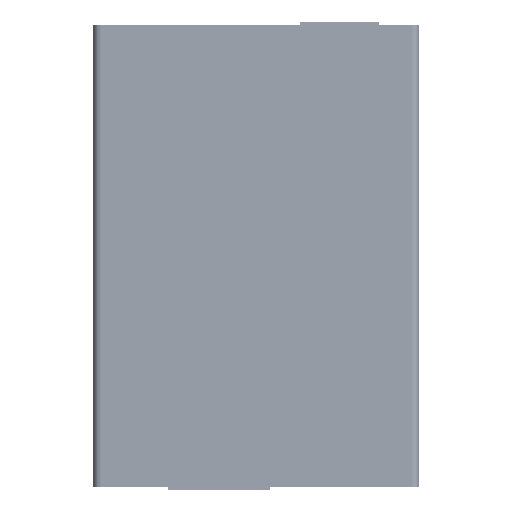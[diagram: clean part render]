
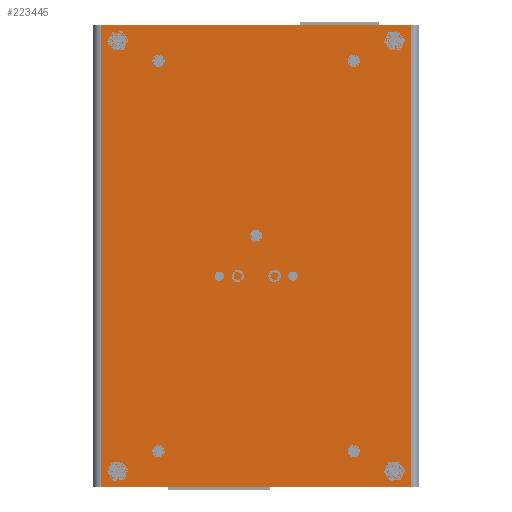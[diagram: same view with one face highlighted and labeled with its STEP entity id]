
A CAD part, front view. The second image highlights one B-rep face of the part: STEP entity #223445.
In plain terms, the highlighted planar face has unit normal (0, -1, 0).
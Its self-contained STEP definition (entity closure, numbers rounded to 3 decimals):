
#221297=DIRECTION('',(1.,0.,0.));
#221298=VECTOR('',#221297,101.);
#221299=CARTESIAN_POINT('',(-50.5,0.,0.));
#221300=LINE('',#221299,#221298);
#221762=DIRECTION('',(0.,0.,1.));
#221763=VECTOR('',#221762,150.);
#221764=CARTESIAN_POINT('',(50.5,0.,0.));
#221765=LINE('',#221764,#221763);
#221770=DIRECTION('',(1.,0.,0.));
#221771=VECTOR('',#221770,101.);
#221772=CARTESIAN_POINT('',(-50.5,0.,150.));
#221773=LINE('',#221772,#221771);
#221774=CARTESIAN_POINT('',(-31.75,0.,138.5));
#221775=DIRECTION('',(0.,-1.,0.));
#221776=DIRECTION('',(0.,0.,1.));
#221777=AXIS2_PLACEMENT_3D('',#221774,#221775,#221776);
#221779=CARTESIAN_POINT('',(-31.75,0.,138.5));
#221780=DIRECTION('',(0.,-1.,0.));
#221781=DIRECTION('',(0.,0.,-1.));
#221782=AXIS2_PLACEMENT_3D('',#221779,#221780,#221781);
#221784=CARTESIAN_POINT('',(31.75,0.,138.5));
#221785=DIRECTION('',(0.,-1.,0.));
#221786=DIRECTION('',(0.,0.,1.));
#221787=AXIS2_PLACEMENT_3D('',#221784,#221785,#221786);
#221789=CARTESIAN_POINT('',(31.75,0.,138.5));
#221790=DIRECTION('',(0.,-1.,0.));
#221791=DIRECTION('',(0.,0.,-1.));
#221792=AXIS2_PLACEMENT_3D('',#221789,#221790,#221791);
#221794=CARTESIAN_POINT('',(-31.75,0.,11.5));
#221795=DIRECTION('',(0.,-1.,0.));
#221796=DIRECTION('',(0.,0.,1.));
#221797=AXIS2_PLACEMENT_3D('',#221794,#221795,#221796);
#221799=CARTESIAN_POINT('',(-31.75,0.,11.5));
#221800=DIRECTION('',(0.,-1.,0.));
#221801=DIRECTION('',(0.,0.,-1.));
#221802=AXIS2_PLACEMENT_3D('',#221799,#221800,#221801);
#221804=CARTESIAN_POINT('',(31.75,0.,11.5));
#221805=DIRECTION('',(0.,-1.,0.));
#221806=DIRECTION('',(0.,0.,1.));
#221807=AXIS2_PLACEMENT_3D('',#221804,#221805,#221806);
#221809=CARTESIAN_POINT('',(31.75,0.,11.5));
#221810=DIRECTION('',(0.,-1.,0.));
#221811=DIRECTION('',(0.,0.,-1.));
#221812=AXIS2_PLACEMENT_3D('',#221809,#221810,#221811);
#221814=CARTESIAN_POINT('',(-12.,0.,81.55));
#221815=DIRECTION('',(0.,-1.,0.));
#221816=DIRECTION('',(0.,0.,1.));
#221817=AXIS2_PLACEMENT_3D('',#221814,#221815,#221816);
#221819=CARTESIAN_POINT('',(-12.,0.,81.55));
#221820=DIRECTION('',(0.,-1.,0.));
#221821=DIRECTION('',(0.,0.,-1.));
#221822=AXIS2_PLACEMENT_3D('',#221819,#221820,#221821);
#221824=CARTESIAN_POINT('',(12.,0.,81.55));
#221825=DIRECTION('',(0.,-1.,0.));
#221826=DIRECTION('',(0.,0.,1.));
#221827=AXIS2_PLACEMENT_3D('',#221824,#221825,#221826);
#221829=CARTESIAN_POINT('',(12.,0.,81.55));
#221830=DIRECTION('',(0.,-1.,0.));
#221831=DIRECTION('',(0.,0.,-1.));
#221832=AXIS2_PLACEMENT_3D('',#221829,#221830,#221831);
#221834=CARTESIAN_POINT('',(0.,0.,68.45));
#221835=DIRECTION('',(0.,-1.,0.));
#221836=DIRECTION('',(0.,0.,1.));
#221837=AXIS2_PLACEMENT_3D('',#221834,#221835,#221836);
#221839=CARTESIAN_POINT('',(0.,0.,68.45));
#221840=DIRECTION('',(0.,-1.,0.));
#221841=DIRECTION('',(0.,0.,-1.));
#221842=AXIS2_PLACEMENT_3D('',#221839,#221840,#221841);
#221844=CARTESIAN_POINT('',(-45.,0.,145.));
#221845=DIRECTION('',(0.,-1.,0.));
#221846=DIRECTION('',(0.,0.,1.));
#221847=AXIS2_PLACEMENT_3D('',#221844,#221845,#221846);
#221849=CARTESIAN_POINT('',(-45.,0.,145.));
#221850=DIRECTION('',(0.,-1.,0.));
#221851=DIRECTION('',(0.,0.,-1.));
#221852=AXIS2_PLACEMENT_3D('',#221849,#221850,#221851);
#221854=CARTESIAN_POINT('',(45.,0.,145.));
#221855=DIRECTION('',(0.,-1.,0.));
#221856=DIRECTION('',(0.,0.,1.));
#221857=AXIS2_PLACEMENT_3D('',#221854,#221855,#221856);
#221859=CARTESIAN_POINT('',(45.,0.,145.));
#221860=DIRECTION('',(0.,-1.,0.));
#221861=DIRECTION('',(0.,0.,-1.));
#221862=AXIS2_PLACEMENT_3D('',#221859,#221860,#221861);
#221864=CARTESIAN_POINT('',(-45.,0.,5.));
#221865=DIRECTION('',(0.,-1.,0.));
#221866=DIRECTION('',(0.,0.,1.));
#221867=AXIS2_PLACEMENT_3D('',#221864,#221865,#221866);
#221869=CARTESIAN_POINT('',(-45.,0.,5.));
#221870=DIRECTION('',(0.,-1.,0.));
#221871=DIRECTION('',(0.,0.,-1.));
#221872=AXIS2_PLACEMENT_3D('',#221869,#221870,#221871);
#221874=CARTESIAN_POINT('',(45.,0.,5.));
#221875=DIRECTION('',(0.,-1.,0.));
#221876=DIRECTION('',(0.,0.,1.));
#221877=AXIS2_PLACEMENT_3D('',#221874,#221875,#221876);
#221879=CARTESIAN_POINT('',(45.,0.,5.));
#221880=DIRECTION('',(0.,-1.,0.));
#221881=DIRECTION('',(0.,0.,-1.));
#221882=AXIS2_PLACEMENT_3D('',#221879,#221880,#221881);
#221888=DIRECTION('',(0.,0.,-1.));
#221889=VECTOR('',#221888,150.);
#221890=CARTESIAN_POINT('',(-50.5,0.,150.));
#221891=LINE('',#221890,#221889);
#222582=CARTESIAN_POINT('',(-50.5,0.,0.));
#222583=VERTEX_POINT('',#222582);
#222584=CARTESIAN_POINT('',(50.5,0.,0.));
#222585=VERTEX_POINT('',#222584);
#222746=CARTESIAN_POINT('',(50.5,0.,150.));
#222747=VERTEX_POINT('',#222746);
#222748=CARTESIAN_POINT('',(-50.5,0.,150.));
#222749=VERTEX_POINT('',#222748);
#222798=CARTESIAN_POINT('',(-31.75,0.,140.));
#222799=CARTESIAN_POINT('',(-31.75,0.,137.));
#222800=VERTEX_POINT('',#222798);
#222801=VERTEX_POINT('',#222799);
#222802=CARTESIAN_POINT('',(31.75,0.,140.));
#222803=CARTESIAN_POINT('',(31.75,0.,137.));
#222804=VERTEX_POINT('',#222802);
#222805=VERTEX_POINT('',#222803);
#222806=CARTESIAN_POINT('',(-31.75,0.,13.));
#222807=CARTESIAN_POINT('',(-31.75,0.,10.));
#222808=VERTEX_POINT('',#222806);
#222809=VERTEX_POINT('',#222807);
#222810=CARTESIAN_POINT('',(31.75,0.,13.));
#222811=CARTESIAN_POINT('',(31.75,0.,10.));
#222812=VERTEX_POINT('',#222810);
#222813=VERTEX_POINT('',#222811);
#222814=CARTESIAN_POINT('',(-12.,0.,83.05));
#222815=CARTESIAN_POINT('',(-12.,0.,80.05));
#222816=VERTEX_POINT('',#222814);
#222817=VERTEX_POINT('',#222815);
#222818=CARTESIAN_POINT('',(12.,0.,83.05));
#222819=CARTESIAN_POINT('',(12.,0.,80.05));
#222820=VERTEX_POINT('',#222818);
#222821=VERTEX_POINT('',#222819);
#222822=CARTESIAN_POINT('',(0.,0.,69.95));
#222823=CARTESIAN_POINT('',(0.,0.,66.95));
#222824=VERTEX_POINT('',#222822);
#222825=VERTEX_POINT('',#222823);
#222826=CARTESIAN_POINT('',(-45.,0.,146.5));
#222827=CARTESIAN_POINT('',(-45.,0.,143.5));
#222828=VERTEX_POINT('',#222826);
#222829=VERTEX_POINT('',#222827);
#222830=CARTESIAN_POINT('',(45.,0.,146.5));
#222831=CARTESIAN_POINT('',(45.,0.,143.5));
#222832=VERTEX_POINT('',#222830);
#222833=VERTEX_POINT('',#222831);
#222834=CARTESIAN_POINT('',(-45.,0.,6.5));
#222835=CARTESIAN_POINT('',(-45.,0.,3.5));
#222836=VERTEX_POINT('',#222834);
#222837=VERTEX_POINT('',#222835);
#222838=CARTESIAN_POINT('',(45.,0.,6.5));
#222839=CARTESIAN_POINT('',(45.,0.,3.5));
#222840=VERTEX_POINT('',#222838);
#222841=VERTEX_POINT('',#222839);
#223367=CARTESIAN_POINT('',(-53.,0.,0.));
#223368=DIRECTION('',(0.,-1.,0.));
#223369=DIRECTION('',(1.,0.,0.));
#223370=AXIS2_PLACEMENT_3D('',#223367,#223368,#223369);
#223371=PLANE('',#223370);
#223373=ORIENTED_EDGE('',*,*,#223372,.F.);
#223374=ORIENTED_EDGE('',*,*,#223255,.T.);
#223375=ORIENTED_EDGE('',*,*,#223360,.F.);
#223376=ORIENTED_EDGE('',*,*,#222963,.F.);
#223377=EDGE_LOOP('',(#223373,#223374,#223375,#223376));
#223378=FACE_OUTER_BOUND('',#223377,.F.);
#223380=ORIENTED_EDGE('',*,*,#223379,.T.);
#223382=ORIENTED_EDGE('',*,*,#223381,.T.);
#223383=EDGE_LOOP('',(#223380,#223382));
#223384=FACE_BOUND('',#223383,.F.);
#223386=ORIENTED_EDGE('',*,*,#223385,.T.);
#223388=ORIENTED_EDGE('',*,*,#223387,.T.);
#223389=EDGE_LOOP('',(#223386,#223388));
#223390=FACE_BOUND('',#223389,.F.);
#223392=ORIENTED_EDGE('',*,*,#223391,.T.);
#223394=ORIENTED_EDGE('',*,*,#223393,.T.);
#223395=EDGE_LOOP('',(#223392,#223394));
#223396=FACE_BOUND('',#223395,.F.);
#223398=ORIENTED_EDGE('',*,*,#223397,.T.);
#223400=ORIENTED_EDGE('',*,*,#223399,.T.);
#223401=EDGE_LOOP('',(#223398,#223400));
#223402=FACE_BOUND('',#223401,.F.);
#223404=ORIENTED_EDGE('',*,*,#223403,.T.);
#223406=ORIENTED_EDGE('',*,*,#223405,.T.);
#223407=EDGE_LOOP('',(#223404,#223406));
#223408=FACE_BOUND('',#223407,.F.);
#223410=ORIENTED_EDGE('',*,*,#223409,.T.);
#223412=ORIENTED_EDGE('',*,*,#223411,.T.);
#223413=EDGE_LOOP('',(#223410,#223412));
#223414=FACE_BOUND('',#223413,.F.);
#223416=ORIENTED_EDGE('',*,*,#223415,.T.);
#223418=ORIENTED_EDGE('',*,*,#223417,.T.);
#223419=EDGE_LOOP('',(#223416,#223418));
#223420=FACE_BOUND('',#223419,.F.);
#223422=ORIENTED_EDGE('',*,*,#223421,.T.);
#223424=ORIENTED_EDGE('',*,*,#223423,.T.);
#223425=EDGE_LOOP('',(#223422,#223424));
#223426=FACE_BOUND('',#223425,.F.);
#223428=ORIENTED_EDGE('',*,*,#223427,.T.);
#223430=ORIENTED_EDGE('',*,*,#223429,.T.);
#223431=EDGE_LOOP('',(#223428,#223430));
#223432=FACE_BOUND('',#223431,.F.);
#223434=ORIENTED_EDGE('',*,*,#223433,.T.);
#223436=ORIENTED_EDGE('',*,*,#223435,.T.);
#223437=EDGE_LOOP('',(#223434,#223436));
#223438=FACE_BOUND('',#223437,.F.);
#223440=ORIENTED_EDGE('',*,*,#223439,.T.);
#223442=ORIENTED_EDGE('',*,*,#223441,.T.);
#223443=EDGE_LOOP('',(#223440,#223442));
#223444=FACE_BOUND('',#223443,.F.);
#221778=CIRCLE('',#221777,1.5);
#221783=CIRCLE('',#221782,1.5);
#221788=CIRCLE('',#221787,1.5);
#221793=CIRCLE('',#221792,1.5);
#221798=CIRCLE('',#221797,1.5);
#221803=CIRCLE('',#221802,1.5);
#221808=CIRCLE('',#221807,1.5);
#221813=CIRCLE('',#221812,1.5);
#221818=CIRCLE('',#221817,1.5);
#221823=CIRCLE('',#221822,1.5);
#221828=CIRCLE('',#221827,1.5);
#221833=CIRCLE('',#221832,1.5);
#221838=CIRCLE('',#221837,1.5);
#221843=CIRCLE('',#221842,1.5);
#221848=CIRCLE('',#221847,1.5);
#221853=CIRCLE('',#221852,1.5);
#221858=CIRCLE('',#221857,1.5);
#221863=CIRCLE('',#221862,1.5);
#221868=CIRCLE('',#221867,1.5);
#221873=CIRCLE('',#221872,1.5);
#221878=CIRCLE('',#221877,1.5);
#221883=CIRCLE('',#221882,1.5);
#222963=EDGE_CURVE('',#222583,#222585,#221300,.T.);
#223255=EDGE_CURVE('',#222749,#222747,#221773,.T.);
#223360=EDGE_CURVE('',#222585,#222747,#221765,.T.);
#223372=EDGE_CURVE('',#222749,#222583,#221891,.T.);
#223379=EDGE_CURVE('',#222800,#222801,#221778,.T.);
#223381=EDGE_CURVE('',#222801,#222800,#221783,.T.);
#223385=EDGE_CURVE('',#222804,#222805,#221788,.T.);
#223387=EDGE_CURVE('',#222805,#222804,#221793,.T.);
#223391=EDGE_CURVE('',#222808,#222809,#221798,.T.);
#223393=EDGE_CURVE('',#222809,#222808,#221803,.T.);
#223397=EDGE_CURVE('',#222812,#222813,#221808,.T.);
#223399=EDGE_CURVE('',#222813,#222812,#221813,.T.);
#223403=EDGE_CURVE('',#222816,#222817,#221818,.T.);
#223405=EDGE_CURVE('',#222817,#222816,#221823,.T.);
#223409=EDGE_CURVE('',#222820,#222821,#221828,.T.);
#223411=EDGE_CURVE('',#222821,#222820,#221833,.T.);
#223415=EDGE_CURVE('',#222824,#222825,#221838,.T.);
#223417=EDGE_CURVE('',#222825,#222824,#221843,.T.);
#223421=EDGE_CURVE('',#222828,#222829,#221848,.T.);
#223423=EDGE_CURVE('',#222829,#222828,#221853,.T.);
#223427=EDGE_CURVE('',#222832,#222833,#221858,.T.);
#223429=EDGE_CURVE('',#222833,#222832,#221863,.T.);
#223433=EDGE_CURVE('',#222836,#222837,#221868,.T.);
#223435=EDGE_CURVE('',#222837,#222836,#221873,.T.);
#223439=EDGE_CURVE('',#222840,#222841,#221878,.T.);
#223441=EDGE_CURVE('',#222841,#222840,#221883,.T.);
#223445=ADVANCED_FACE('',(#223378,#223384,#223390,#223396,#223402,#223408,
#223414,#223420,#223426,#223432,#223438,#223444),#223371,.T.);
